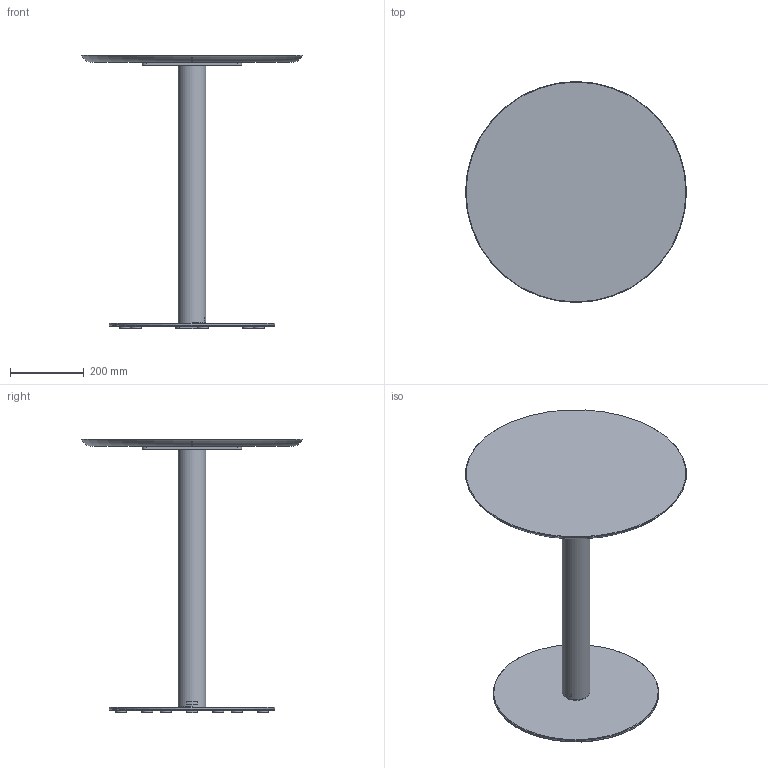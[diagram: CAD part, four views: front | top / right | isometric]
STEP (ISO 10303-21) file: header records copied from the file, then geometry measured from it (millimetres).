
FILE_DESCRIPTION( ('This file contains a STEP AP42 implementation' ,'as created by ZW3D STEP Interface translator.') ,'2;1' );
FILE_NAME( 'Henri - B_Rond - F1 - M3 - 600 x 600 x 750.stp' ,'24 912.151043', (''), ('ZWCAD Software Co.'), 'Version 1.0', 'ZW3D to STEP translator', '' );
FILE_SCHEMA(('AUTOMOTIVE_DESIGN { 1 0 10303 214 1 1 1 1 }'));
Length unit declared in the file: millimetre
Products named in the file (14): 0; PIED BISTROT PARAMETRIQUE_; COLONNE ACIER Ø76 V.02_; TUB-D076-02_; PLA-R76B-01_; SOCLE ACIER C Ø450 V.02_; SCL-D450-02_; PLA-R30A-01_; PLA-R30A-01; CROIX ACIER 370 V.02_; CRX-X370-02_; WUERTH 0276063020 Euro-screw 6.3x2 Verzinkt_; PLATEAU BISTROT PARAMETRIQUE_; insert_m6_13_
Assembly tree (24 placements, depth 3):
  0
  PIED BISTROT PARAMETRIQUE_
    COLONNE ACIER Ø76 V.02_
      TUB-D076-02_
      PLA-R76B-01_  x2
    SOCLE ACIER C Ø450 V.02_
      SCL-D450-02_
      PLA-R30A-01_
      PLA-R30A-01  x5
    CROIX ACIER 370 V.02_
      CRX-X370-02_
    WUERTH 0276063020 Euro-screw 6.3x2 Verzinkt_
    PLATEAU BISTROT PARAMETRIQUE_
      insert_m6_13_  x8
Bounding box: 600 x 600 x 744 mm (x, y, z)
Volume: 7595529.8 mm3; surface area: 1435359.7 mm2
Topology: 21 solids, 21 shells, 524 faces, 1273 edges, 802 vertices
Faces by surface type: plane 250, bspline 121, cylinder 103, cone 45, torus 5
Full cylindrical faces by diameter (mm): 4.88 x1, 6 x8, 6.3 x1, 8 x47, 12 x2, 14 x2, 30 x6, 72 x1, 76 x1, 450 x1
Entity records: 11742 total; most frequent: CARTESIAN_POINT 3302, ORIENTED_EDGE 1526, DIRECTION 1432, EDGE_CURVE 763, VERTEX_POINT 490, AXIS2_PLACEMENT_3D 482, VECTOR 468, LINE 468
